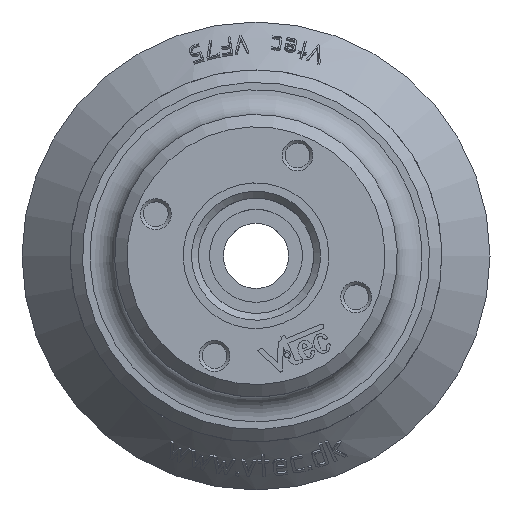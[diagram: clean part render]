
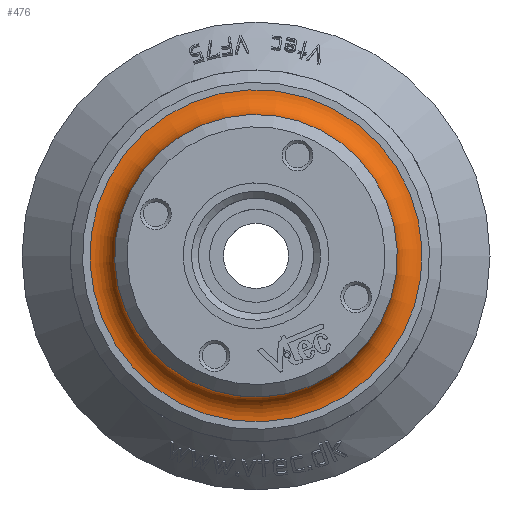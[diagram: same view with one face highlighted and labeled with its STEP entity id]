
A CAD part, top view. The second image highlights one B-rep face of the part: STEP entity #476.
In plain terms, the highlighted toroidal (fillet/blend) face has major radius 26.8 mm and minor radius 4 mm.
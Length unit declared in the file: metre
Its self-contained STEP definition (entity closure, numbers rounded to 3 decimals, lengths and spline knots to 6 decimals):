
#476 = ADVANCED_FACE( '', ( #1197, #1198 ), #1199, .F. );
#1197 = FACE_OUTER_BOUND( '', #6626, .T. );
#1198 = FACE_OUTER_BOUND( '', #6627, .T. );
#1199 = TOROIDAL_SURFACE( '', #6628, 0.0268, 0.004 );
#6626 = EDGE_LOOP( '', ( #8662 ) );
#6627 = EDGE_LOOP( '', ( #8663 ) );
#6628 = AXIS2_PLACEMENT_3D( '', #8664, #8665, #8666 );
#8662 = ORIENTED_EDGE( '', *, *, #9695, .F. );
#8663 = ORIENTED_EDGE( '', *, *, #9696, .T. );
#8664 = CARTESIAN_POINT( '', ( 0., 0., 0.00225 ) );
#8665 = DIRECTION( '', ( 0., 0., 1. ) );
#8666 = DIRECTION( '', ( 1., 0., 0. ) );
#9695 = EDGE_CURVE( '', #11078, #11078, #11079, .T. );
#9696 = EDGE_CURVE( '', #11080, #11080, #11081, .T. );
#11078 = VERTEX_POINT( '', #15114 );
#11079 = CIRCLE( '', #15115, 0.0228 );
#11080 = VERTEX_POINT( '', #15116 );
#11081 = CIRCLE( '', #15117, 0.0268 );
#15114 = CARTESIAN_POINT( '', ( 0.0228, 0., 0.00225 ) );
#15115 = AXIS2_PLACEMENT_3D( '', #15939, #15940, #15941 );
#15116 = CARTESIAN_POINT( '', ( 0.0268, 0., -0.00175 ) );
#15117 = AXIS2_PLACEMENT_3D( '', #15942, #15943, #15944 );
#15939 = CARTESIAN_POINT( '', ( 0., 0., 0.00225 ) );
#15940 = DIRECTION( '', ( 0., 0., 1. ) );
#15941 = DIRECTION( '', ( 1., 0., 0. ) );
#15942 = CARTESIAN_POINT( '', ( 0., 0., -0.00175 ) );
#15943 = DIRECTION( '', ( 0., 0., 1. ) );
#15944 = DIRECTION( '', ( 1., 0., 0. ) );
